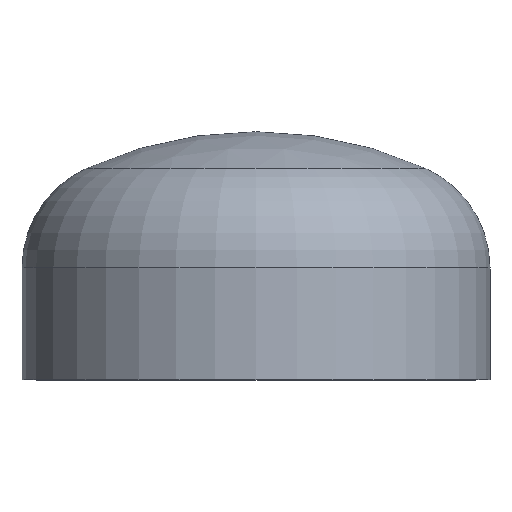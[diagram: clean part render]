
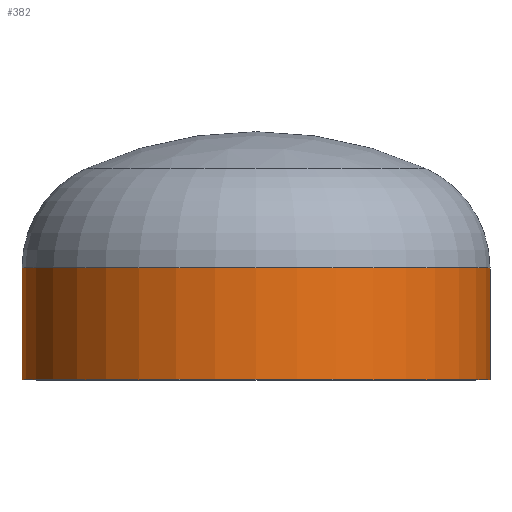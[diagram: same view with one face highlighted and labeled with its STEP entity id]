
A CAD part, top view. The second image highlights one B-rep face of the part: STEP entity #382.
In plain terms, the highlighted cylindrical face has radius 177.8 mm (diameter 355.6 mm), a partial arc.
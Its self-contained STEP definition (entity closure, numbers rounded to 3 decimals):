
#17 = AXIS2_PLACEMENT_3D ( 'NONE', #309, #192, #327 ) ;
#36 = ORIENTED_EDGE ( 'NONE', *, *, #117, .T. ) ;
#37 = AXIS2_PLACEMENT_3D ( 'NONE', #254, #252, #305 ) ;
#54 = VERTEX_POINT ( 'NONE', #302 ) ;
#57 = ORIENTED_EDGE ( 'NONE', *, *, #381, .F. ) ;
#62 = VERTEX_POINT ( 'NONE', #286 ) ;
#84 = VERTEX_POINT ( 'NONE', #370 ) ;
#109 = VERTEX_POINT ( 'NONE', #163 ) ;
#117 = EDGE_CURVE ( 'NONE', #109, #84, #336, .T. ) ;
#120 = ORIENTED_EDGE ( 'NONE', *, *, #349, .F. ) ;
#150 = DIRECTION ( 'NONE',  ( 0., -1., 0. ) ) ;
#156 = CARTESIAN_POINT ( 'NONE',  ( 177.8, 0., 0. ) ) ;
#159 = LINE ( 'NONE', #156, #216 ) ;
#161 = EDGE_LOOP ( 'NONE', ( #408, #36, #120, #57 ) ) ;
#163 = CARTESIAN_POINT ( 'NONE',  ( -177.8, 85., 0. ) ) ;
#180 = DIRECTION ( 'NONE',  ( 0., -1., 0. ) ) ;
#188 = CIRCLE ( 'NONE', #17, 177.8 ) ;
#192 = DIRECTION ( 'NONE',  ( 0., -1., 0. ) ) ;
#214 = CARTESIAN_POINT ( 'NONE',  ( -177.8, 0., 0. ) ) ;
#216 = VECTOR ( 'NONE', #299, 1000. ) ;
#227 = CARTESIAN_POINT ( 'NONE',  ( 0., 0., 0. ) ) ;
#234 = EDGE_CURVE ( 'NONE', #62, #109, #247, .T. ) ;
#240 = AXIS2_PLACEMENT_3D ( 'NONE', #227, #180, #312 ) ;
#247 = CIRCLE ( 'NONE', #37, 177.8 ) ;
#252 = DIRECTION ( 'NONE',  ( 0., -1., 0. ) ) ;
#254 = CARTESIAN_POINT ( 'NONE',  ( 0., 85., 0. ) ) ;
#271 = CYLINDRICAL_SURFACE ( 'NONE', #240, 177.8 ) ;
#286 = CARTESIAN_POINT ( 'NONE',  ( 177.8, 85., 0. ) ) ;
#299 = DIRECTION ( 'NONE',  ( 0., -1., 0. ) ) ;
#302 = CARTESIAN_POINT ( 'NONE',  ( 177.8, 0., 0. ) ) ;
#305 = DIRECTION ( 'NONE',  ( 1., 0., 0. ) ) ;
#309 = CARTESIAN_POINT ( 'NONE',  ( 0., 0., 0. ) ) ;
#312 = DIRECTION ( 'NONE',  ( 1., 0., 0. ) ) ;
#327 = DIRECTION ( 'NONE',  ( 1., 0., 0. ) ) ;
#336 = LINE ( 'NONE', #214, #390 ) ;
#349 = EDGE_CURVE ( 'NONE', #54, #84, #188, .T. ) ;
#370 = CARTESIAN_POINT ( 'NONE',  ( -177.8, 0., 0. ) ) ;
#381 = EDGE_CURVE ( 'NONE', #62, #54, #159, .T. ) ;
#382 = ADVANCED_FACE ( 'NONE', ( #387 ), #271, .T. ) ;
#387 = FACE_OUTER_BOUND ( 'NONE', #161, .T. ) ;
#390 = VECTOR ( 'NONE', #150, 1000. ) ;
#408 = ORIENTED_EDGE ( 'NONE', *, *, #234, .T. ) ;
